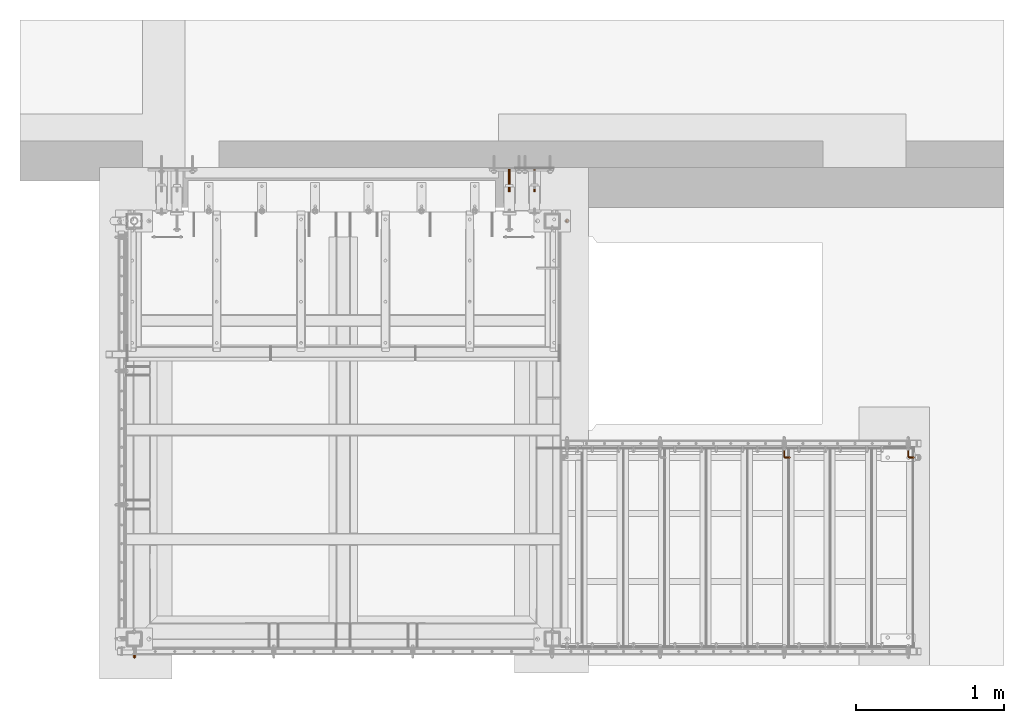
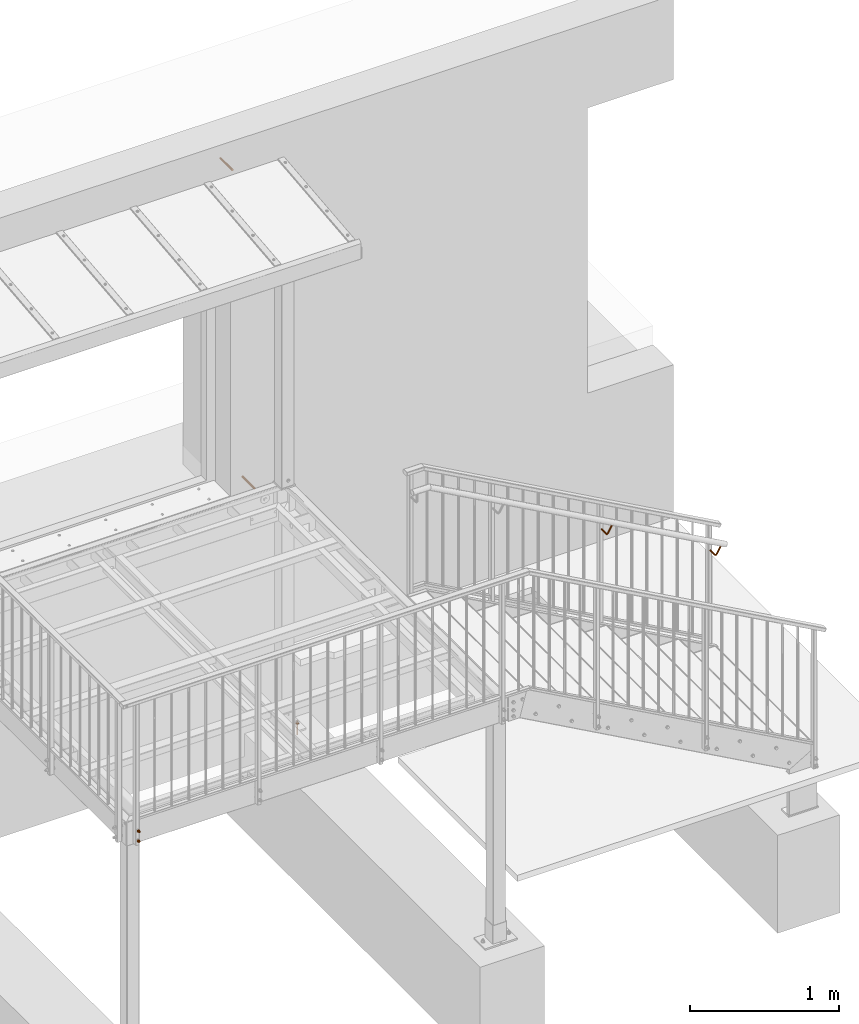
# One storey, part 97 of 116: 7 proxies.
"""IFC2X3 building model written with IfcOpenShell, lengths in millimetres."""

from ifc_helpers import new_model, entity, si_unit, converted_unit, origin_with_axes, place, context, project, spatial, faceted_brep, material, element, save


model = new_model("IFC2X3")

# Units and contexts
model_context = context("Model", 3, precision=1e-09, world=origin_with_axes())
ifc_project = project(units=[si_unit("LENGTHUNIT", "METRE", prefix="MILLI"), si_unit("AREAUNIT", "SQUARE_METRE"), si_unit("VOLUMEUNIT", "CUBIC_METRE"), converted_unit("PLANEANGLEUNIT", "DEGREE", entity("IfcPlaneAngleMeasure", 0.01745329), si_unit("PLANEANGLEUNIT", "RADIAN"), dimensions=[0, 0, 0, 0, 0, 0, 0])], contexts=[model_context])

# Site, building, storey
site_placement = place(None, origin_with_axes())
site = spatial("IfcSite", under=ifc_project, at=site_placement, Name="Site", CompositionType="ELEMENT")
building_placement = place(site_placement, origin_with_axes())
building = spatial("IfcBuilding", under=site, at=building_placement, Name="Struktur 1", CompositionType="ELEMENT")
storey_placement = place(building_placement, origin_with_axes())
storey = spatial("IfcBuildingStorey", under=building, at=storey_placement, Name="Default Storey", CompositionType="ELEMENT", Elevation=0.0)

# Proxies
ifc_material = material(Name="Kein")
proxy_1_placement = place(None, origin_with_axes())
element("IfcBuildingElementProxy", 1, at=proxy_1_placement, inside=storey, material=ifc_material, ObjectType="-", context=model_context, shape_type="Brep", body=[
    faceted_brep([(58270.049134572, 11957.162730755, -1976.5), (58270.049134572, 11957.162730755, -1992.0), (58272.245286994, 11959.358883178, -1992.0), (58272.245286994, 11959.358883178, -1976.5), (58279.049134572, 11962.358883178, -1992.0), (58277.441439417, 11968.358883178, -1992.0), (58273.049134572, 11972.751188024, -1992.0), (58267.049134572, 11974.358883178, -1992.0), (58261.049134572, 11972.751188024, -1992.0), (58256.656829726, 11968.358883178, -1992.0), (58255.049134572, 11962.358883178, -1992.0), (58256.656829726, 11956.358883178, -1992.0), (58261.049134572, 11951.966578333, -1992.0), (58267.049134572, 11950.358883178, -1992.0), (58273.049134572, 11951.966578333, -1992.0), (58277.441439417, 11956.358883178, -1992.0), (58267.049134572, 11956.358883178, -1992.0), (58264.049134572, 11957.162730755, -1992.0), (58261.852982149, 11959.358883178, -1992.0), (58261.049134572, 11962.358883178, -1992.0), (58261.852982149, 11965.358883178, -1992.0), (58264.049134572, 11967.555035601, -1992.0), (58267.049134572, 11968.358883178, -1992.0), (58270.049134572, 11967.555035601, -1992.0), (58272.245286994, 11965.358883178, -1992.0), (58273.049134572, 11962.358883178, -1992.0), (58267.049134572, 11956.358883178, -1976.5), (58277.441439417, 11956.358883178, -1994.5), (58273.049134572, 11951.966578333, -1994.5), (58264.049134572, 11967.555035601, -1976.5), (58261.852982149, 11965.358883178, -1976.5), (58261.049134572, 11962.358883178, -1976.5), (58261.852982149, 11959.358883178, -1976.5), (58264.049134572, 11957.162730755, -1976.5), (58273.049134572, 11962.358883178, -1976.5), (58272.245286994, 11965.358883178, -1976.5), (58270.049134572, 11967.555035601, -1976.5), (58267.049134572, 11968.358883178, -1976.5), (58267.049134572, 11950.358883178, -1994.5), (58261.049134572, 11951.966578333, -1994.5), (58256.656829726, 11956.358883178, -1994.5), (58255.049134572, 11962.358883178, -1994.5), (58256.656829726, 11968.358883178, -1994.5), (58261.049134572, 11972.751188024, -1994.5), (58267.049134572, 11974.358883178, -1994.5), (58273.049134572, 11972.751188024, -1994.5), (58277.441439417, 11968.358883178, -1994.5), (58279.049134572, 11962.358883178, -1994.5), (58267.049134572, 11956.358883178, -1994.5), (58270.049134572, 11957.162730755, -1994.5), (58272.245286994, 11959.358883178, -1994.5), (58273.049134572, 11962.358883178, -1994.5), (58272.245286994, 11965.358883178, -1994.5), (58270.049134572, 11967.555035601, -1994.5), (58267.049134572, 11968.358883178, -1994.5), (58264.049134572, 11967.555035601, -1994.5), (58261.852982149, 11965.358883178, -1994.5), (58261.049134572, 11962.358883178, -1994.5), (58261.852982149, 11959.358883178, -1994.5), (58264.049134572, 11957.162730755, -1994.5), (58270.049134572, 11957.162730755, -2086.5), (58267.049134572, 11956.358883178, -2086.5), (58272.245286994, 11959.358883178, -2086.5), (58273.049134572, 11962.358883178, -2086.5), (58272.245286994, 11965.358883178, -2086.5), (58270.049134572, 11967.555035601, -2086.5), (58264.049134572, 11957.162730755, -2086.5), (58261.852982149, 11959.358883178, -2086.5), (58261.049134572, 11962.358883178, -2086.5), (58261.852982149, 11965.358883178, -2086.5), (58264.049134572, 11967.555035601, -2086.5), (58267.049134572, 11968.358883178, -2086.5)], [[[0, 1, 2, 3]], [[4, 5, 6, 7, 8, 9, 10, 11, 12, 13, 14, 15], [2, 1, 16, 17, 18, 19, 20, 21, 22, 23, 24, 25]], [[1, 0, 26, 16]], [[27, 15, 14, 28]], [[29, 30, 31, 32, 33, 26, 0, 3, 34, 35, 36, 37]], [[38, 39, 40, 41, 42, 43, 44, 45, 46, 47, 27, 28], [48, 49, 50, 51, 52, 53, 54, 55, 56, 57, 58, 59]], [[15, 27, 47, 4]], [[3, 2, 25, 34]], [[28, 14, 13, 38]], [[16, 26, 33, 17]], [[60, 49, 48, 61]], [[62, 50, 49, 60]], [[63, 51, 50, 62]], [[64, 52, 51, 63]], [[4, 47, 46, 5]], [[34, 25, 24, 35]], [[17, 33, 32, 18]], [[65, 64, 63, 62, 60, 61, 66, 67, 68, 69, 70, 71]], [[61, 48, 59, 66]], [[38, 13, 12, 39]], [[52, 64, 65, 53]], [[18, 32, 31, 19]], [[53, 65, 71, 54]], [[5, 46, 45, 6]], [[35, 24, 23, 36]], [[58, 67, 66, 59]], [[39, 12, 11, 40]], [[19, 31, 30, 20]], [[67, 58, 57, 68]], [[56, 69, 68, 57]], [[55, 70, 69, 56]], [[54, 71, 70, 55]], [[6, 45, 44, 7]], [[36, 23, 22, 37]], [[40, 11, 10, 41]], [[21, 29, 37, 22]], [[20, 30, 29, 21]], [[7, 44, 43, 8]], [[41, 10, 9, 42]], [[8, 43, 42, 9]]]),
])
proxy_2_placement = place(None, origin_with_axes())
element("IfcBuildingElementProxy", 2, at=proxy_2_placement, inside=storey, material=ifc_material, ObjectType="-", context=model_context, shape_type="Brep", body=[
    faceted_brep([(58047.049134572, 12316.357883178, -123.0), (58047.049134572, 12156.357883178, -123.0), (58043.049134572, 12156.357883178, -121.92820323), (58043.049134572, 12316.357883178, -121.92820323), (58051.049134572, 12316.357883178, -121.92820323), (58051.049134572, 12156.357883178, -121.92820323), (58053.977337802, 12156.357883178, -111.0), (58051.049134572, 12156.357883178, -108.07179677), (58047.049134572, 12156.357883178, -107.0), (58043.049134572, 12156.357883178, -108.07179677), (58040.120931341, 12156.357883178, -111.0), (58039.049134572, 12156.357883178, -115.0), (58040.120931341, 12156.357883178, -119.0), (58053.977337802, 12156.357883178, -119.0), (58055.049134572, 12156.357883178, -115.0), (58040.120931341, 12316.357883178, -111.0), (58043.049134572, 12316.357883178, -108.07179677), (58047.049134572, 12316.357883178, -107.0), (58051.049134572, 12316.357883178, -108.07179677), (58053.977337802, 12316.357883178, -111.0), (58055.049134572, 12316.357883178, -115.0), (58053.977337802, 12316.357883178, -119.0), (58040.120931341, 12316.357883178, -119.0), (58039.049134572, 12316.357883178, -115.0)], [[[0, 1, 2, 3]], [[1, 0, 4, 5]], [[6, 7, 8, 9, 10, 11, 12, 2, 1, 5, 13, 14]], [[15, 16, 17, 18, 19, 20, 21, 4, 0, 3, 22, 23]], [[3, 2, 12, 22]], [[5, 4, 21, 13]], [[11, 23, 22, 12]], [[10, 15, 23, 11]], [[13, 21, 20, 14]], [[16, 9, 8, 17]], [[15, 10, 9, 16]], [[17, 8, 7, 18]], [[14, 20, 19, 6]], [[18, 7, 6, 19]]]),
])
proxy_3_placement = place(None, origin_with_axes())
element("IfcBuildingElementProxy", 3, at=proxy_3_placement, inside=storey, material=ifc_material, ObjectType="-", context=model_context, shape_type="Brep", body=[
    faceted_brep([(57877.049134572, 12316.357883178, 2537.0), (57877.049134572, 12156.357883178, 2537.0), (57873.049134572, 12156.357883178, 2538.07179677), (57873.049134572, 12316.357883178, 2538.07179677), (57881.049134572, 12316.357883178, 2538.07179677), (57881.049134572, 12156.357883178, 2538.07179677), (57883.977337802, 12156.357883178, 2549.0), (57881.049134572, 12156.357883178, 2551.92820323), (57877.049134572, 12156.357883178, 2553.0), (57873.049134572, 12156.357883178, 2551.92820323), (57870.120931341, 12156.357883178, 2549.0), (57869.049134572, 12156.357883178, 2545.0), (57870.120931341, 12156.357883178, 2541.0), (57883.977337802, 12156.357883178, 2541.0), (57885.049134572, 12156.357883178, 2545.0), (57870.120931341, 12316.357883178, 2549.0), (57873.049134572, 12316.357883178, 2551.92820323), (57877.049134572, 12316.357883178, 2553.0), (57881.049134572, 12316.357883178, 2551.92820323), (57883.977337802, 12316.357883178, 2549.0), (57885.049134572, 12316.357883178, 2545.0), (57883.977337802, 12316.357883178, 2541.0), (57870.120931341, 12316.357883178, 2541.0), (57869.049134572, 12316.357883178, 2545.0)], [[[0, 1, 2, 3]], [[1, 0, 4, 5]], [[6, 7, 8, 9, 10, 11, 12, 2, 1, 5, 13, 14]], [[15, 16, 17, 18, 19, 20, 21, 4, 0, 3, 22, 23]], [[3, 2, 12, 22]], [[5, 4, 21, 13]], [[11, 23, 22, 12]], [[10, 15, 23, 11]], [[13, 21, 20, 14]], [[16, 9, 8, 17]], [[15, 10, 9, 16]], [[17, 8, 7, 18]], [[14, 20, 19, 6]], [[18, 7, 6, 19]]]),
])
proxy_4_placement = place(None, origin_with_axes())
element("IfcBuildingElementProxy", 4, at=proxy_4_placement, inside=storey, material=ifc_material, ObjectType="-", context=model_context, shape_type="Brep", body=[
    faceted_brep([(55333.049134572, 9022.359883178, -145.0), (55333.049134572, 9012.359883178, -145.0), (55333.852982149, 9012.359883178, -148.0), (55333.852982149, 9022.359883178, -148.0), (55336.049134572, 9012.359883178, -150.196152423), (55336.049134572, 9022.359883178, -150.196152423), (55333.852982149, 9022.359883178, -142.0), (55333.852982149, 9012.359883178, -142.0), (55329.569265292, 9022.359883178, -139.526794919), (55339.049134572, 9022.359883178, -134.053589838), (55348.529003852, 9022.359883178, -139.526794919), (55348.529003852, 9022.359883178, -150.473205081), (55339.049134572, 9022.359883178, -155.946410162), (55329.569265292, 9022.359883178, -150.473205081), (55336.049134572, 9022.359883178, -139.803847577), (55339.049134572, 9022.359883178, -151.0), (55342.049134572, 9022.359883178, -150.196152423), (55344.245286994, 9022.359883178, -148.0), (55345.049134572, 9022.359883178, -145.0), (55344.245286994, 9022.359883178, -142.0), (55342.049134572, 9022.359883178, -139.803847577), (55339.049134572, 9022.359883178, -139.0), (55339.049134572, 9012.359883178, -134.053589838), (55329.569265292, 9012.359883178, -139.526794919), (55329.569265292, 9012.359883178, -150.473205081), (55339.049134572, 9012.359883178, -155.946410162), (55348.529003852, 9012.359883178, -150.473205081), (55348.529003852, 9012.359883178, -139.526794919), (55336.049134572, 9012.359883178, -139.803847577), (55339.049134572, 9012.359883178, -139.0), (55342.049134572, 9012.359883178, -139.803847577), (55344.245286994, 9012.359883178, -142.0), (55345.049134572, 9012.359883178, -145.0), (55344.245286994, 9012.359883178, -148.0), (55342.049134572, 9012.359883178, -150.196152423), (55339.049134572, 9012.359883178, -151.0)], [[[0, 1, 2, 3]], [[3, 2, 4, 5]], [[1, 0, 6, 7]], [[8, 9, 10, 11, 12, 13], [14, 6, 0, 3, 5, 15, 16, 17, 18, 19, 20, 21]], [[22, 23, 24, 25, 26, 27], [1, 7, 28, 29, 30, 31, 32, 33, 34, 35, 4, 2]], [[7, 6, 14, 28]], [[24, 23, 8, 13]], [[5, 4, 35, 15]], [[13, 12, 25, 24]], [[28, 14, 21, 29]], [[23, 22, 9, 8]], [[15, 35, 34, 16]], [[12, 11, 26, 25]], [[29, 21, 20, 30]], [[22, 27, 10, 9]], [[16, 34, 33, 17]], [[27, 26, 11, 10]], [[30, 20, 19, 31]], [[17, 33, 32, 18]], [[31, 19, 18, 32]]]),
    faceted_brep([(55339.049134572, 9012.359883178, -136.0), (55339.049134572, 9009.359883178, -136.0), (55343.549134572, 9009.359883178, -137.205771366), (55343.549134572, 9012.359883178, -137.205771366), (55334.549134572, 9012.359883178, -137.205771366), (55334.549134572, 9009.359883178, -137.205771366), (55331.254905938, 9009.359883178, -149.5), (55334.549134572, 9009.359883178, -152.794228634), (55339.049134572, 9009.359883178, -154.0), (55343.549134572, 9009.359883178, -152.794228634), (55346.843363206, 9009.359883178, -149.5), (55348.049134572, 9009.359883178, -145.0), (55346.843363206, 9009.359883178, -140.5), (55331.254905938, 9009.359883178, -140.5), (55330.049134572, 9009.359883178, -145.0), (55346.843363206, 9012.359883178, -149.5), (55343.549134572, 9012.359883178, -152.794228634), (55339.049134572, 9012.359883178, -154.0), (55334.549134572, 9012.359883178, -152.794228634), (55331.254905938, 9012.359883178, -149.5), (55330.049134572, 9012.359883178, -145.0), (55331.254905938, 9012.359883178, -140.5), (55346.843363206, 9012.359883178, -140.5), (55348.049134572, 9012.359883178, -145.0)], [[[0, 1, 2, 3]], [[1, 0, 4, 5]], [[6, 7, 8, 9, 10, 11, 12, 2, 1, 5, 13, 14]], [[15, 16, 17, 18, 19, 20, 21, 4, 0, 3, 22, 23]], [[3, 2, 12, 22]], [[5, 4, 21, 13]], [[22, 12, 11, 23]], [[13, 21, 20, 14]], [[7, 18, 17, 8]], [[19, 6, 14, 20]], [[18, 7, 6, 19]], [[23, 11, 10, 15]], [[8, 17, 16, 9]], [[15, 10, 9, 16]]]),
    faceted_brep([(55331.254905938, 9009.359883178, -140.5), (55332.299134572, 9004.859883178, -141.102885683), (55335.152020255, 9004.859883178, -138.25), (55334.549134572, 9009.359883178, -137.205771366), (55346.843363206, 9009.359883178, -149.5), (55343.549134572, 9009.359883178, -152.794228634), (55339.049134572, 9009.359883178, -154.0), (55334.549134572, 9009.359883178, -152.794228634), (55331.254905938, 9009.359883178, -149.5), (55330.049134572, 9009.359883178, -145.0), (55339.049134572, 9009.359883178, -136.0), (55343.549134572, 9009.359883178, -137.205771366), (55346.843363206, 9009.359883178, -140.5), (55348.049134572, 9009.359883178, -145.0), (55339.049134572, 9004.859883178, -137.205771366), (55331.254905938, 9004.859883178, -145.0), (55334.549134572, 9001.565654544, -145.0), (55335.152020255, 9001.565654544, -142.75), (55342.946248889, 9004.859883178, -138.25), (55336.799134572, 9001.565654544, -141.102885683), (55332.299134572, 9004.859883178, -148.897114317), (55335.152020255, 9001.565654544, -147.25), (55339.049134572, 9001.565654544, -140.5), (55339.049134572, 9000.359883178, -145.0), (55335.152020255, 9004.859883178, -151.75), (55336.799134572, 9001.565654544, -148.897114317), (55339.049134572, 9004.859883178, -152.794228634), (55345.799134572, 9004.859883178, -141.102885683), (55341.299134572, 9001.565654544, -141.102885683), (55339.049134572, 9001.565654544, -149.5), (55342.946248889, 9004.859883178, -151.75), (55341.299134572, 9001.565654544, -148.897114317), (55346.843363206, 9004.859883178, -145.0), (55342.946248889, 9001.565654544, -142.75), (55345.799134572, 9004.859883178, -148.897114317), (55342.946248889, 9001.565654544, -147.25), (55343.549134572, 9001.565654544, -145.0)], [[[0, 1, 2, 3]], [[4, 5, 6, 7, 8, 9, 0, 3, 10, 11, 12, 13]], [[3, 2, 14, 10]], [[15, 16, 17, 1]], [[1, 0, 9, 15]], [[10, 14, 18, 11]], [[1, 17, 19, 2]], [[16, 15, 20, 21]], [[2, 19, 22, 14]], [[23, 17, 16]], [[24, 25, 21, 20]], [[23, 16, 21]], [[24, 7, 6, 26]], [[20, 8, 7, 24]], [[15, 9, 8, 20]], [[11, 18, 27, 12]], [[14, 22, 28, 18]], [[23, 19, 17]], [[26, 29, 25, 24]], [[23, 21, 25]], [[23, 22, 19]], [[26, 6, 5, 30]], [[29, 26, 30, 31]], [[23, 25, 29]], [[12, 27, 32, 13]], [[18, 28, 33, 27]], [[23, 28, 22]], [[23, 29, 31]], [[23, 33, 28]], [[30, 5, 4, 34]], [[31, 30, 34, 35]], [[23, 31, 35]], [[13, 32, 34, 4]], [[27, 33, 36, 32]], [[23, 36, 33]], [[23, 35, 36]], [[35, 34, 32, 36]]]),
])
proxy_5_placement = place(None, origin_with_axes())
element("IfcBuildingElementProxy", 5, at=proxy_5_placement, inside=storey, material=ifc_material, ObjectType="-", context=model_context, shape_type="Brep", body=[
    faceted_brep([(55333.049134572, 9022.359883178, -65.0), (55333.049134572, 9012.359883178, -65.0), (55333.852982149, 9012.359883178, -68.0), (55333.852982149, 9022.359883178, -68.0), (55336.049134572, 9012.359883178, -70.196152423), (55336.049134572, 9022.359883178, -70.196152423), (55333.852982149, 9022.359883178, -62.0), (55333.852982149, 9012.359883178, -62.0), (55329.569265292, 9022.359883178, -59.526794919), (55339.049134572, 9022.359883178, -54.053589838), (55348.529003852, 9022.359883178, -59.526794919), (55348.529003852, 9022.359883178, -70.473205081), (55339.049134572, 9022.359883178, -75.946410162), (55329.569265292, 9022.359883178, -70.473205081), (55336.049134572, 9022.359883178, -59.803847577), (55339.049134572, 9022.359883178, -71.0), (55342.049134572, 9022.359883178, -70.196152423), (55344.245286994, 9022.359883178, -68.0), (55345.049134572, 9022.359883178, -65.0), (55344.245286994, 9022.359883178, -62.0), (55342.049134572, 9022.359883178, -59.803847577), (55339.049134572, 9022.359883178, -59.0), (55339.049134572, 9012.359883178, -54.053589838), (55329.569265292, 9012.359883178, -59.526794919), (55329.569265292, 9012.359883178, -70.473205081), (55339.049134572, 9012.359883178, -75.946410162), (55348.529003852, 9012.359883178, -70.473205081), (55348.529003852, 9012.359883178, -59.526794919), (55336.049134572, 9012.359883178, -59.803847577), (55339.049134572, 9012.359883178, -59.0), (55342.049134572, 9012.359883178, -59.803847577), (55344.245286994, 9012.359883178, -62.0), (55345.049134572, 9012.359883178, -65.0), (55344.245286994, 9012.359883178, -68.0), (55342.049134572, 9012.359883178, -70.196152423), (55339.049134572, 9012.359883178, -71.0)], [[[0, 1, 2, 3]], [[3, 2, 4, 5]], [[1, 0, 6, 7]], [[8, 9, 10, 11, 12, 13], [14, 6, 0, 3, 5, 15, 16, 17, 18, 19, 20, 21]], [[22, 23, 24, 25, 26, 27], [1, 7, 28, 29, 30, 31, 32, 33, 34, 35, 4, 2]], [[7, 6, 14, 28]], [[24, 23, 8, 13]], [[5, 4, 35, 15]], [[13, 12, 25, 24]], [[28, 14, 21, 29]], [[23, 22, 9, 8]], [[15, 35, 34, 16]], [[12, 11, 26, 25]], [[29, 21, 20, 30]], [[22, 27, 10, 9]], [[16, 34, 33, 17]], [[27, 26, 11, 10]], [[30, 20, 19, 31]], [[17, 33, 32, 18]], [[31, 19, 18, 32]]]),
    faceted_brep([(55339.049134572, 9012.359883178, -56.0), (55339.049134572, 9009.359883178, -56.0), (55343.549134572, 9009.359883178, -57.205771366), (55343.549134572, 9012.359883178, -57.205771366), (55334.549134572, 9012.359883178, -57.205771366), (55334.549134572, 9009.359883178, -57.205771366), (55331.254905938, 9009.359883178, -69.5), (55334.549134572, 9009.359883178, -72.794228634), (55339.049134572, 9009.359883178, -74.0), (55343.549134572, 9009.359883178, -72.794228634), (55346.843363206, 9009.359883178, -69.5), (55348.049134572, 9009.359883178, -65.0), (55346.843363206, 9009.359883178, -60.5), (55331.254905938, 9009.359883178, -60.5), (55330.049134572, 9009.359883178, -65.0), (55346.843363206, 9012.359883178, -69.5), (55343.549134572, 9012.359883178, -72.794228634), (55339.049134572, 9012.359883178, -74.0), (55334.549134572, 9012.359883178, -72.794228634), (55331.254905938, 9012.359883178, -69.5), (55330.049134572, 9012.359883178, -65.0), (55331.254905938, 9012.359883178, -60.5), (55346.843363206, 9012.359883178, -60.5), (55348.049134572, 9012.359883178, -65.0)], [[[0, 1, 2, 3]], [[1, 0, 4, 5]], [[6, 7, 8, 9, 10, 11, 12, 2, 1, 5, 13, 14]], [[15, 16, 17, 18, 19, 20, 21, 4, 0, 3, 22, 23]], [[3, 2, 12, 22]], [[5, 4, 21, 13]], [[22, 12, 11, 23]], [[13, 21, 20, 14]], [[7, 18, 17, 8]], [[19, 6, 14, 20]], [[18, 7, 6, 19]], [[23, 11, 10, 15]], [[8, 17, 16, 9]], [[15, 10, 9, 16]]]),
    faceted_brep([(55331.254905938, 9009.359883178, -60.5), (55332.299134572, 9004.859883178, -61.102885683), (55335.152020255, 9004.859883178, -58.25), (55334.549134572, 9009.359883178, -57.205771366), (55346.843363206, 9009.359883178, -69.5), (55343.549134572, 9009.359883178, -72.794228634), (55339.049134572, 9009.359883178, -74.0), (55334.549134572, 9009.359883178, -72.794228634), (55331.254905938, 9009.359883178, -69.5), (55330.049134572, 9009.359883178, -65.0), (55339.049134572, 9009.359883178, -56.0), (55343.549134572, 9009.359883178, -57.205771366), (55346.843363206, 9009.359883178, -60.5), (55348.049134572, 9009.359883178, -65.0), (55339.049134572, 9004.859883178, -57.205771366), (55331.254905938, 9004.859883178, -65.0), (55334.549134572, 9001.565654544, -65.0), (55335.152020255, 9001.565654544, -62.75), (55342.946248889, 9004.859883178, -58.25), (55336.799134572, 9001.565654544, -61.102885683), (55332.299134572, 9004.859883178, -68.897114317), (55335.152020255, 9001.565654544, -67.25), (55339.049134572, 9001.565654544, -60.5), (55339.049134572, 9000.359883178, -65.0), (55335.152020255, 9004.859883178, -71.75), (55336.799134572, 9001.565654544, -68.897114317), (55339.049134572, 9004.859883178, -72.794228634), (55345.799134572, 9004.859883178, -61.102885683), (55341.299134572, 9001.565654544, -61.102885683), (55339.049134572, 9001.565654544, -69.5), (55342.946248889, 9004.859883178, -71.75), (55341.299134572, 9001.565654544, -68.897114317), (55346.843363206, 9004.859883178, -65.0), (55342.946248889, 9001.565654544, -62.75), (55345.799134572, 9004.859883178, -68.897114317), (55342.946248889, 9001.565654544, -67.25), (55343.549134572, 9001.565654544, -65.0)], [[[0, 1, 2, 3]], [[4, 5, 6, 7, 8, 9, 0, 3, 10, 11, 12, 13]], [[3, 2, 14, 10]], [[15, 16, 17, 1]], [[1, 0, 9, 15]], [[10, 14, 18, 11]], [[1, 17, 19, 2]], [[16, 15, 20, 21]], [[2, 19, 22, 14]], [[23, 17, 16]], [[24, 25, 21, 20]], [[23, 16, 21]], [[24, 7, 6, 26]], [[20, 8, 7, 24]], [[15, 9, 8, 20]], [[11, 18, 27, 12]], [[14, 22, 28, 18]], [[23, 19, 17]], [[26, 29, 25, 24]], [[23, 21, 25]], [[23, 22, 19]], [[26, 6, 5, 30]], [[29, 26, 30, 31]], [[23, 25, 29]], [[12, 27, 32, 13]], [[18, 28, 33, 27]], [[23, 28, 22]], [[23, 29, 31]], [[23, 33, 28]], [[30, 5, 4, 34]], [[31, 30, 34, 35]], [[23, 31, 35]], [[13, 32, 34, 4]], [[27, 33, 36, 32]], [[23, 36, 33]], [[23, 35, 36]], [[35, 34, 32, 36]]]),
])
proxy_6_placement = place(None, origin_with_axes())
element("IfcBuildingElementProxy", 6, at=proxy_6_placement, inside=storey, material=ifc_material, ObjectType="-", context=model_context, shape_type="Brep", body=[
    faceted_brep([(59740.791716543, 10368.469581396, -1.756887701), (59742.839032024, 10369.617631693, 0.276988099), (59744.416186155, 10364.75128146, 3.120477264), (59742.684301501, 10362.629961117, 1.655299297), (59740.127129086, 10375.357883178, -2.955088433), (59742.285209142, 10375.357883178, -0.721512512), (59743.480431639, 10370.76568199, 3.090661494), (59743.037373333, 10375.357883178, 2.291861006), (59737.887061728, 10367.629150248, -2.465990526), (59737.141388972, 10375.357883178, -3.810381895), (59740.010558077, 10361.077046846, 1.36251218), (59745.516755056, 10358.728051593, 6.761998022), (59743.18859495, 10356.699071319, 7.092271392), (59746.776564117, 10361.499690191, 7.376059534), (59744.742154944, 10366.872601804, 5.365452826), (59742.182079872, 10375.357883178, 5.277601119), (59742.54405288, 10371.606113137, 5.930210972), (59746.937345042, 10355.161730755, 13.85098321), (59744.313870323, 10354.357883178, 15.306105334), (59740.41591242, 10355.956412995, 8.278383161), (59773.416312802, 10354.357883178, 67.775599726), (59776.039787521, 10355.161730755, 66.320477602), (59770.792838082, 10355.161730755, 69.23072185), (59741.690395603, 10355.161730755, 16.761227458), (59737.141388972, 10435.357883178, -3.810381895), (59740.127129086, 10435.357883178, -2.955088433), (59734.128015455, 10375.357883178, -3.058217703), (59734.128015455, 10435.357883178, -3.058217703), (59743.037373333, 10435.357883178, 2.291861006), (59742.182079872, 10435.357883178, 5.277601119), (59742.285209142, 10435.357883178, -0.721512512), (59748.857861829, 10357.357883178, 12.785759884), (59749.560819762, 10360.357883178, 12.395861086), (59739.948503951, 10435.357883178, 7.435681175), (59739.948503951, 10375.357883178, 7.435681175), (59777.960304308, 10363.357883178, 65.255254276), (59776.039787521, 10365.554035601, 66.320477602), (59773.416312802, 10366.357883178, 67.775599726), (59770.792838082, 10365.554035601, 69.23072185), (59768.872321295, 10363.357883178, 70.295945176), (59768.169363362, 10360.357883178, 70.685843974), (59768.872321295, 10357.357883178, 70.295945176), (59777.960304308, 10357.357883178, 65.255254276), (59778.663262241, 10360.357883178, 64.865355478), (59737.941645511, 10356.699071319, 10.00251564), (59737.111383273, 10360.508640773, 2.320567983), (59733.94939032, 10435.357883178, 7.332551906), (59736.935130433, 10435.357883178, 8.187845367), (59731.894439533, 10435.357883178, -0.900137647), (59731.039146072, 10435.357883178, 2.085602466), (59731.791310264, 10435.357883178, 5.098975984), (59734.903367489, 10367.321531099, -1.660316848), (59746.630457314, 10364.271328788, 8.769918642), (59748.857861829, 10363.357883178, 12.785759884), (59743.574864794, 10368.425516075, 7.788686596), (59740.28079768, 10371.913732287, 8.034781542), (59739.769878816, 10357.357883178, 17.826450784), (59731.894439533, 10375.357883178, -0.900137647), (59736.935130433, 10375.357883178, 8.187845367), (59736.428772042, 10358.728051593, 11.802688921), (59734.763608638, 10361.077046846, 4.272756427), (59732.640112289, 10367.629150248, 0.444253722), (59746.937345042, 10365.554035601, 13.85098321), (59745.117583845, 10366.300309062, 10.570091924), (59741.227090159, 10368.993922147, 9.740875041), (59737.297103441, 10371.606113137, 8.84045522), (59739.066920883, 10360.357883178, 18.216349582), (59731.039146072, 10375.357883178, 2.085602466), (59733.94939032, 10375.357883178, 7.332551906), (59731.791310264, 10375.357883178, 5.098975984), (59744.313870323, 10366.357883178, 15.306105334), (59736.282665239, 10361.499690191, 13.19654803), (59733.596318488, 10362.629961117, 6.695990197), (59731.70373353, 10368.469581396, 3.283803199), (59742.643316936, 10367.042967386, 12.294224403), (59738.327915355, 10368.425516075, 10.698930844), (59734.392448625, 10370.76568199, 8.131352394), (59739.769878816, 10363.357883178, 17.826450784), (59732.345133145, 10369.617631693, 6.097476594), (59741.690395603, 10365.554035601, 16.761227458), (59737.5424743, 10364.271328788, 13.810609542), (59733.922287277, 10364.75128146, 8.940965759), (59739.870634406, 10366.300309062, 13.480336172), (59735.654171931, 10366.872601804, 10.406143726)], [[[0, 1, 2, 3]], [[1, 0, 4, 5]], [[6, 1, 5, 7]], [[0, 8, 9, 4]], [[3, 10, 8, 0]], [[11, 12, 10, 3]], [[3, 2, 13, 11]], [[1, 6, 14, 2]], [[7, 15, 16, 6]], [[17, 18, 19, 12]], [[20, 18, 17, 21]], [[18, 20, 22, 23]], [[9, 24, 25, 4]], [[24, 9, 26, 27]], [[7, 28, 29, 15]], [[5, 30, 28, 7]], [[4, 25, 30, 5]], [[12, 11, 31, 17]], [[11, 13, 32, 31]], [[15, 29, 33, 34]], [[35, 36, 37, 38, 39, 40, 41, 22, 20, 21, 42, 43]], [[18, 23, 44, 19]], [[12, 19, 45, 10]], [[46, 47, 33, 29, 28, 30, 25, 24, 27, 48, 49, 50]], [[8, 51, 26, 9]], [[10, 45, 51, 8]], [[2, 14, 52, 13]], [[13, 52, 53, 32]], [[6, 16, 54, 14]], [[15, 34, 55, 16]], [[21, 17, 31, 42]], [[23, 22, 41, 56]], [[27, 26, 57, 48]], [[32, 43, 42, 31]], [[53, 35, 43, 32]], [[34, 33, 47, 58]], [[23, 56, 59, 44]], [[19, 44, 60, 45]], [[51, 61, 57, 26]], [[45, 60, 61, 51]], [[35, 53, 62, 36]], [[14, 54, 63, 52]], [[52, 63, 62, 53]], [[16, 55, 64, 54]], [[34, 58, 65, 55]], [[56, 41, 40, 66]], [[48, 57, 67, 49]], [[46, 68, 58, 47]], [[50, 69, 68, 46]], [[49, 67, 69, 50]], [[36, 62, 70, 37]], [[56, 66, 71, 59]], [[44, 59, 72, 60]], [[61, 73, 67, 57]], [[60, 72, 73, 61]], [[63, 74, 70, 62]], [[54, 64, 74, 63]], [[55, 65, 75, 64]], [[58, 68, 76, 65]], [[66, 40, 39, 77]], [[68, 69, 78, 76]], [[69, 67, 73, 78]], [[38, 79, 77, 39]], [[37, 70, 79, 38]], [[66, 77, 80, 71]], [[59, 71, 81, 72]], [[72, 81, 78, 73]], [[74, 82, 79, 70]], [[64, 75, 82, 74]], [[65, 76, 83, 75]], [[76, 78, 81, 83]], [[77, 79, 82, 80]], [[71, 80, 83, 81]], [[75, 83, 80, 82]]]),
])
proxy_7_placement = place(None, origin_with_axes())
element("IfcBuildingElementProxy", 7, at=proxy_7_placement, inside=storey, material=ifc_material, ObjectType="-", context=model_context, shape_type="Brep", body=[
    faceted_brep([(60580.791716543, 10368.469581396, -466.756887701), (60582.839032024, 10369.617631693, -464.723011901), (60584.416186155, 10364.75128146, -461.879522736), (60582.684301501, 10362.629961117, -463.344700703), (60580.127129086, 10375.357883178, -467.955088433), (60582.285209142, 10375.357883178, -465.721512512), (60583.480431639, 10370.76568199, -461.909338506), (60583.037373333, 10375.357883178, -462.708138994), (60577.887061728, 10367.629150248, -467.465990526), (60577.141388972, 10375.357883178, -468.810381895), (60580.010558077, 10361.077046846, -463.63748782), (60585.516755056, 10358.728051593, -458.238001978), (60583.18859495, 10356.699071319, -457.907728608), (60586.776564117, 10361.499690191, -457.623940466), (60584.742154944, 10366.872601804, -459.634547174), (60582.182079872, 10375.357883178, -459.722398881), (60582.54405288, 10371.606113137, -459.069789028), (60586.937345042, 10355.161730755, -451.14901679), (60584.313870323, 10354.357883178, -449.693894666), (60580.41591242, 10355.956412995, -456.721616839), (60613.416312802, 10354.357883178, -397.224400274), (60616.039787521, 10355.161730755, -398.679522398), (60610.792838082, 10355.161730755, -395.76927815), (60581.690395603, 10355.161730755, -448.238772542), (60577.141388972, 10435.357883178, -468.810381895), (60580.127129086, 10435.357883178, -467.955088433), (60574.128015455, 10375.357883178, -468.058217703), (60574.128015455, 10435.357883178, -468.058217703), (60583.037373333, 10435.357883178, -462.708138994), (60582.182079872, 10435.357883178, -459.722398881), (60582.285209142, 10435.357883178, -465.721512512), (60588.857861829, 10357.357883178, -452.214240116), (60589.560819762, 10360.357883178, -452.604138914), (60579.948503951, 10435.357883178, -457.564318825), (60579.948503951, 10375.357883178, -457.564318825), (60617.960304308, 10363.357883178, -399.744745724), (60616.039787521, 10365.554035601, -398.679522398), (60613.416312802, 10366.357883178, -397.224400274), (60610.792838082, 10365.554035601, -395.76927815), (60608.872321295, 10363.357883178, -394.704054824), (60608.169363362, 10360.357883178, -394.314156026), (60608.872321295, 10357.357883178, -394.704054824), (60617.960304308, 10357.357883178, -399.744745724), (60618.663262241, 10360.357883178, -400.134644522), (60577.941645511, 10356.699071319, -454.99748436), (60577.111383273, 10360.508640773, -462.679432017), (60573.94939032, 10435.357883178, -457.667448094), (60576.935130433, 10435.357883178, -456.812154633), (60571.894439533, 10435.357883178, -465.900137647), (60571.039146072, 10435.357883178, -462.914397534), (60571.791310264, 10435.357883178, -459.901024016), (60574.903367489, 10367.321531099, -466.660316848), (60586.630457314, 10364.271328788, -456.230081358), (60588.857861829, 10363.357883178, -452.214240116), (60583.574864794, 10368.425516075, -457.211313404), (60580.28079768, 10371.913732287, -456.965218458), (60579.769878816, 10357.357883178, -447.173549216), (60571.894439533, 10375.357883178, -465.900137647), (60576.935130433, 10375.357883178, -456.812154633), (60576.428772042, 10358.728051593, -453.197311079), (60574.763608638, 10361.077046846, -460.727243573), (60572.640112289, 10367.629150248, -464.555746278), (60586.937345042, 10365.554035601, -451.14901679), (60585.117583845, 10366.300309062, -454.429908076), (60581.227090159, 10368.993922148, -455.259124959), (60577.297103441, 10371.606113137, -456.15954478), (60579.066920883, 10360.357883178, -446.783650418), (60571.039146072, 10375.357883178, -462.914397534), (60573.94939032, 10375.357883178, -457.667448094), (60571.791310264, 10375.357883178, -459.901024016), (60584.313870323, 10366.357883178, -449.693894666), (60576.282665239, 10361.499690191, -451.80345197), (60573.596318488, 10362.629961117, -458.304009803), (60571.70373353, 10368.469581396, -461.716196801), (60582.643316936, 10367.042967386, -452.705775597), (60578.327915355, 10368.425516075, -454.301069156), (60574.392448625, 10370.76568199, -456.868647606), (60579.769878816, 10363.357883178, -447.173549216), (60572.345133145, 10369.617631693, -458.902523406), (60581.690395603, 10365.554035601, -448.238772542), (60577.5424743, 10364.271328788, -451.189390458), (60573.922287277, 10364.75128146, -456.059034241), (60579.870634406, 10366.300309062, -451.519663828), (60575.654171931, 10366.872601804, -454.593856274)], [[[0, 1, 2, 3]], [[1, 0, 4, 5]], [[6, 1, 5, 7]], [[0, 8, 9, 4]], [[3, 10, 8, 0]], [[11, 12, 10, 3]], [[3, 2, 13, 11]], [[1, 6, 14, 2]], [[7, 15, 16, 6]], [[17, 18, 19, 12]], [[20, 18, 17, 21]], [[18, 20, 22, 23]], [[9, 24, 25, 4]], [[24, 9, 26, 27]], [[7, 28, 29, 15]], [[5, 30, 28, 7]], [[4, 25, 30, 5]], [[12, 11, 31, 17]], [[11, 13, 32, 31]], [[15, 29, 33, 34]], [[35, 36, 37, 38, 39, 40, 41, 22, 20, 21, 42, 43]], [[18, 23, 44, 19]], [[12, 19, 45, 10]], [[46, 47, 33, 29, 28, 30, 25, 24, 27, 48, 49, 50]], [[8, 51, 26, 9]], [[10, 45, 51, 8]], [[2, 14, 52, 13]], [[13, 52, 53, 32]], [[6, 16, 54, 14]], [[15, 34, 55, 16]], [[21, 17, 31, 42]], [[23, 22, 41, 56]], [[27, 26, 57, 48]], [[32, 43, 42, 31]], [[53, 35, 43, 32]], [[34, 33, 47, 58]], [[23, 56, 59, 44]], [[19, 44, 60, 45]], [[51, 61, 57, 26]], [[45, 60, 61, 51]], [[35, 53, 62, 36]], [[14, 54, 63, 52]], [[52, 63, 62, 53]], [[16, 55, 64, 54]], [[34, 58, 65, 55]], [[56, 41, 40, 66]], [[48, 57, 67, 49]], [[46, 68, 58, 47]], [[50, 69, 68, 46]], [[49, 67, 69, 50]], [[36, 62, 70, 37]], [[56, 66, 71, 59]], [[44, 59, 72, 60]], [[61, 73, 67, 57]], [[60, 72, 73, 61]], [[63, 74, 70, 62]], [[54, 64, 74, 63]], [[55, 65, 75, 64]], [[58, 68, 76, 65]], [[66, 40, 39, 77]], [[68, 69, 78, 76]], [[69, 67, 73, 78]], [[38, 79, 77, 39]], [[37, 70, 79, 38]], [[66, 77, 80, 71]], [[59, 71, 81, 72]], [[72, 81, 78, 73]], [[74, 82, 79, 70]], [[64, 75, 82, 74]], [[65, 76, 83, 75]], [[76, 78, 81, 83]], [[77, 79, 82, 80]], [[71, 80, 83, 81]], [[75, 83, 80, 82]]]),
])

save(model, "model.ifc")
